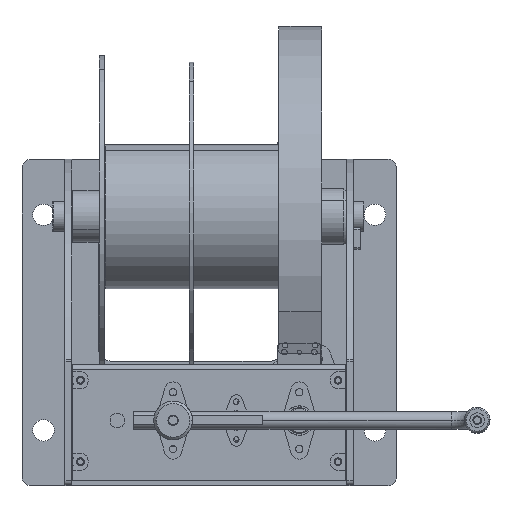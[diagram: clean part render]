
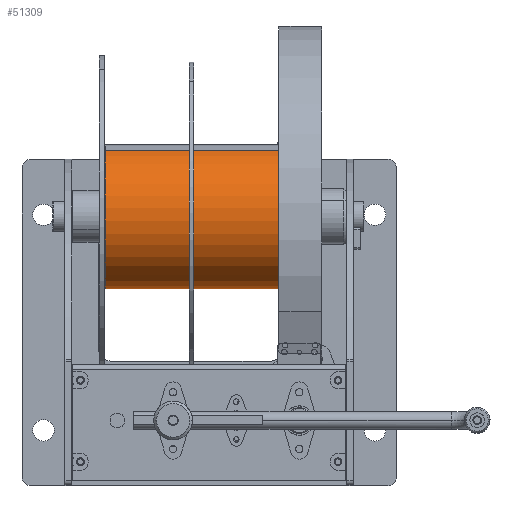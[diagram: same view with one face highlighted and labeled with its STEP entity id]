
A CAD part, top view. The second image highlights one B-rep face of the part: STEP entity #51309.
In plain terms, the highlighted cylindrical face has radius 84.15 mm (diameter 168.3 mm), a partial arc.
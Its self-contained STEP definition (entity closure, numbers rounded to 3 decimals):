
#257 = FACE_OUTER_BOUND ( 'NONE', #20475, .T. ) ;
#3030 = DIRECTION ( 'NONE',  ( 1., 0., 0. ) ) ;
#6147 = VECTOR ( 'NONE', #27283, 1000. ) ;
#10188 = CIRCLE ( 'NONE', #48262, 84.15 ) ;
#14726 = VERTEX_POINT ( 'NONE', #26964 ) ;
#16519 = ORIENTED_EDGE ( 'NONE', *, *, #25980, .T. ) ;
#18607 = VERTEX_POINT ( 'NONE', #39386 ) ;
#20475 = EDGE_LOOP ( 'NONE', ( #21308, #38176, #16519, #23112 ) ) ;
#21308 = ORIENTED_EDGE ( 'NONE', *, *, #40897, .F. ) ;
#23112 = ORIENTED_EDGE ( 'NONE', *, *, #24275, .T. ) ;
#24275 = EDGE_CURVE ( 'NONE', #42683, #35457, #27724, .T. ) ;
#25980 = EDGE_CURVE ( 'NONE', #18607, #42683, #65972, .T. ) ;
#26964 = CARTESIAN_POINT ( 'NONE',  ( 84.15, 0., 111. ) ) ;
#27283 = DIRECTION ( 'NONE',  ( 0., 0., -1. ) ) ;
#27724 = CIRCLE ( 'NONE', #58823, 84.15 ) ;
#28814 = CARTESIAN_POINT ( 'NONE',  ( 0., 0., 111. ) ) ;
#31947 = CARTESIAN_POINT ( 'NONE',  ( 0., 0., 112. ) ) ;
#34307 = DIRECTION ( 'NONE',  ( 1., 0., 0. ) ) ;
#35236 = LINE ( 'NONE', #55467, #60826 ) ;
#35457 = VERTEX_POINT ( 'NONE', #68842 ) ;
#35791 = DIRECTION ( 'NONE',  ( 0., 0., 1. ) ) ;
#36415 = AXIS2_PLACEMENT_3D ( 'NONE', #31947, #70130, #64646 ) ;
#38176 = ORIENTED_EDGE ( 'NONE', *, *, #61206, .T. ) ;
#39249 = DIRECTION ( 'NONE',  ( 0., 0., -1. ) ) ;
#39386 = CARTESIAN_POINT ( 'NONE',  ( -84.15, 0., 111. ) ) ;
#40891 = CARTESIAN_POINT ( 'NONE',  ( -84.15, 0., 112. ) ) ;
#40897 = EDGE_CURVE ( 'NONE', #14726, #35457, #35236, .T. ) ;
#42683 = VERTEX_POINT ( 'NONE', #68193 ) ;
#48262 = AXIS2_PLACEMENT_3D ( 'NONE', #28814, #66975, #34307 ) ;
#51309 = ADVANCED_FACE ( 'NONE', ( #257 ), #67810, .T. ) ;
#55467 = CARTESIAN_POINT ( 'NONE',  ( 84.15, 0., 112. ) ) ;
#58823 = AXIS2_PLACEMENT_3D ( 'NONE', #68488, #35791, #3030 ) ;
#60826 = VECTOR ( 'NONE', #39249, 1000. ) ;
#61206 = EDGE_CURVE ( 'NONE', #14726, #18607, #10188, .T. ) ;
#64646 = DIRECTION ( 'NONE',  ( -1., 0., 0. ) ) ;
#65972 = LINE ( 'NONE', #40891, #6147 ) ;
#66975 = DIRECTION ( 'NONE',  ( 0., 0., -1. ) ) ;
#67810 = CYLINDRICAL_SURFACE ( 'NONE', #36415, 84.15 ) ;
#68193 = CARTESIAN_POINT ( 'NONE',  ( -84.15, 0., -111. ) ) ;
#68488 = CARTESIAN_POINT ( 'NONE',  ( 0., 0., -111. ) ) ;
#68842 = CARTESIAN_POINT ( 'NONE',  ( 84.15, 0., -111. ) ) ;
#70130 = DIRECTION ( 'NONE',  ( 0., 0., -1. ) ) ;
